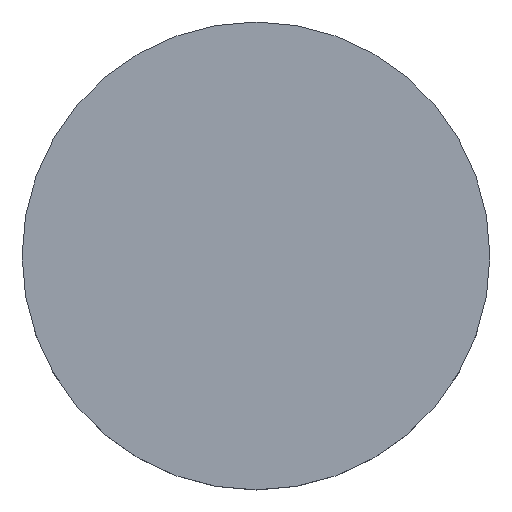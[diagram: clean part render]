
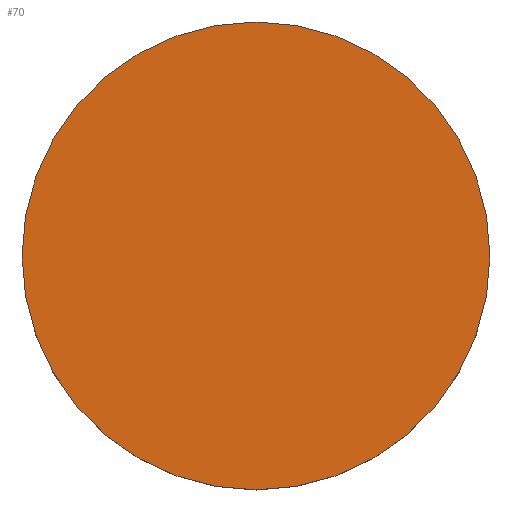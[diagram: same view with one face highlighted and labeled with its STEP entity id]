
A CAD part, top view. The second image highlights one B-rep face of the part: STEP entity #70.
In plain terms, the highlighted planar face has unit normal (0, 0, 1).
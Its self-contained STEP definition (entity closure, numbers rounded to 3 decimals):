
#31 = VERTEX_POINT('',#32);
#32 = CARTESIAN_POINT('',(0.,1.588,3.048));
#38 = EDGE_CURVE('',#31,#31,#39,.T.);
#39 = CIRCLE('',#40,1.588);
#40 = AXIS2_PLACEMENT_3D('',#41,#42,#43);
#41 = CARTESIAN_POINT('',(0.,0.,3.048));
#42 = DIRECTION('',(-0.,0.,-1.));
#43 = DIRECTION('',(0.,1.,0.));
#70 = ADVANCED_FACE('',(#71),#74,.F.);
#71 = FACE_BOUND('',#72,.T.);
#72 = EDGE_LOOP('',(#73));
#73 = ORIENTED_EDGE('',*,*,#38,.F.);
#74 = PLANE('',#75);
#75 = AXIS2_PLACEMENT_3D('',#76,#77,#78);
#76 = CARTESIAN_POINT('',(0.,0.,3.048));
#77 = DIRECTION('',(0.,0.,-1.));
#78 = DIRECTION('',(0.,1.,0.));
